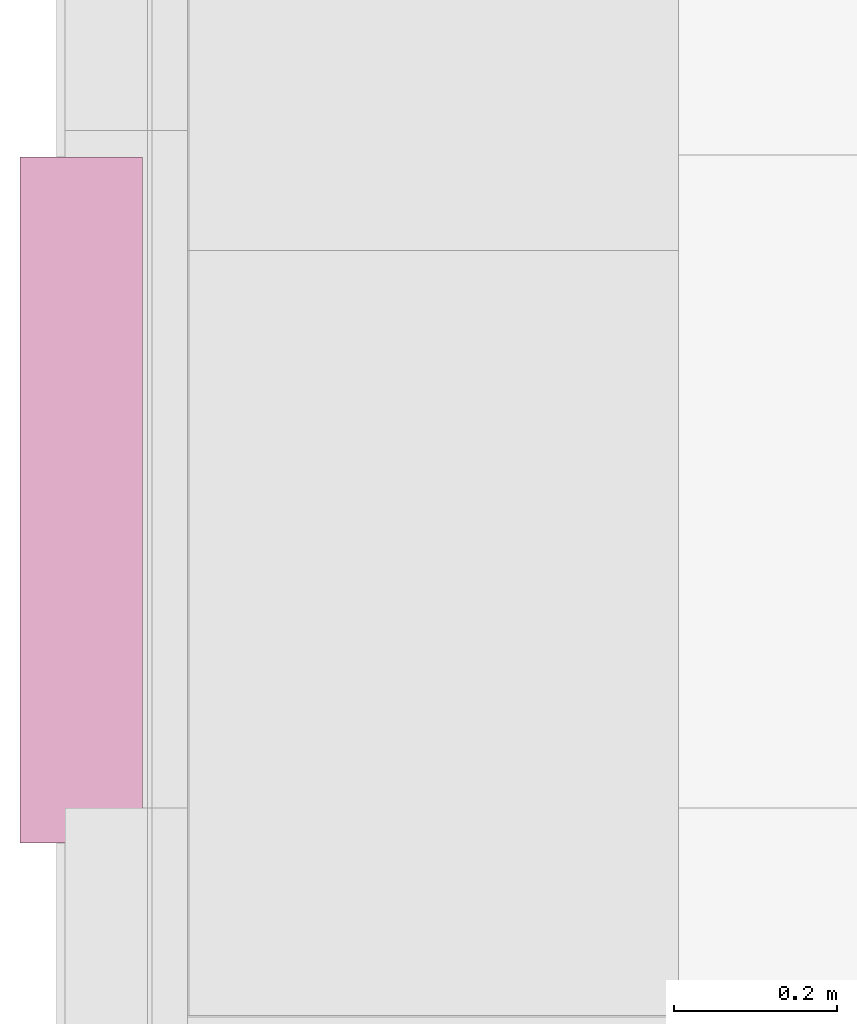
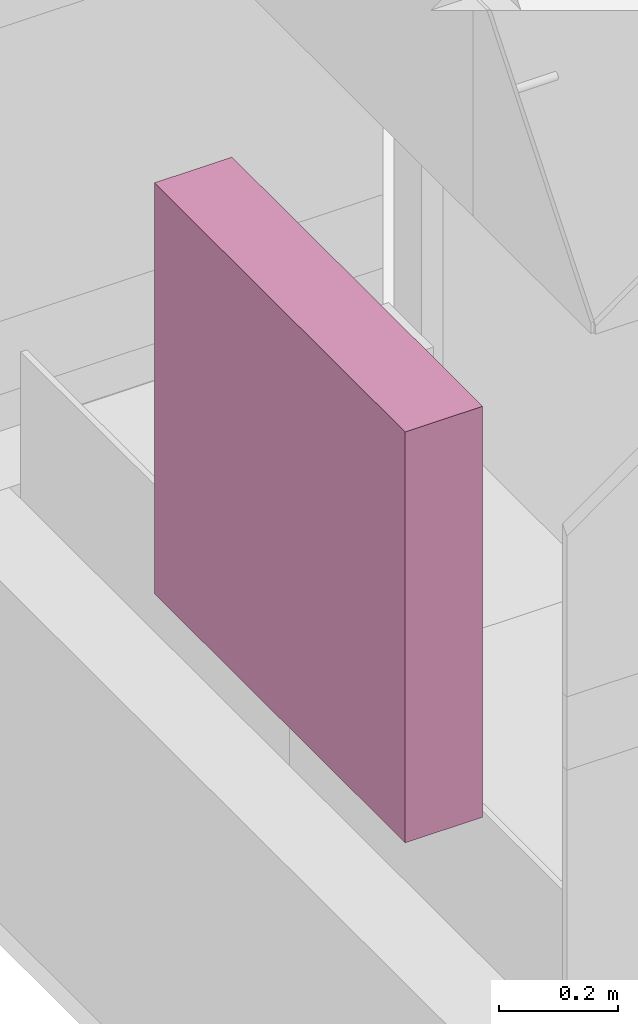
# One storey, part 24 of 26: 1 furnishing.
"""IFC2X3 building model written with IfcOpenShell, lengths in millimetres."""

from ifc_helpers import new_model, entity, si_unit, converted_unit, derived_unit, direction, frame, frame_2d, origin, origin_with_axes, place, context, subcontext, project, spatial, rectangle, extrude, source, transform, mapped, material, type_object, element, save


model = new_model("IFC2X3")

# Units and contexts
model_context = context("Model", 3, precision=0.01, world=frame((0.0, 4.29681676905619e-09, 0.0)), true_north=direction((4.01073788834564e-13, 1.0)))
plan_context = context("Plan", 3, precision=0.01, world=frame((0.0, 4.29681676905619e-09, 0.0)), true_north=direction((4.01073788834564e-13, 1.0)))
body_context = subcontext(model_context, "Body", "Model", "MODEL_VIEW")
ifc_project = project(units=[converted_unit("PLANEANGLEUNIT", "DEGREE", entity("IfcPositiveLengthMeasure", 0.0174532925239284), si_unit("PLANEANGLEUNIT", "RADIAN"), dimensions=[0, 0, 0, 0, 0, 0, 0]), si_unit("AREAUNIT", "SQUARE_METRE"), si_unit("LENGTHUNIT", "METRE", prefix="MILLI"), si_unit("MASSUNIT", "GRAM", prefix="KILO"), si_unit("POWERUNIT", "WATT"), si_unit("PRESSUREUNIT", "PASCAL", prefix="KILO"), si_unit("FORCEUNIT", "NEWTON", prefix="KILO"), si_unit("ELECTRICVOLTAGEUNIT", "VOLT"), si_unit("ELECTRICCURRENTUNIT", "AMPERE"), si_unit("THERMODYNAMICTEMPERATUREUNIT", "DEGREE_CELSIUS"), si_unit("TIMEUNIT", "SECOND"), si_unit("VOLUMEUNIT", "CUBIC_METRE"), derived_unit("LINEARVELOCITYUNIT", [(si_unit("LENGTHUNIT", "METRE"), 1), (si_unit("TIMEUNIT", "SECOND"), -1)]), derived_unit("VOLUMETRICFLOWRATEUNIT", [(si_unit("VOLUMEUNIT", "CUBIC_METRE"), 1), (si_unit("TIMEUNIT", "SECOND"), -1)]), derived_unit("THERMALTRANSMITTANCEUNIT", [(si_unit("POWERUNIT", "WATT"), 1), (si_unit("THERMODYNAMICTEMPERATUREUNIT", "KELVIN"), -1), (si_unit("AREAUNIT", "SQUARE_METRE"), -1)]), derived_unit("SOUNDPRESSUREUNIT", [(si_unit("PRESSUREUNIT", "PASCAL"), 1)])], contexts=[model_context, plan_context])

# Site, building, storey
site_placement = place(None, origin_with_axes())
site = spatial("IfcSite", under=ifc_project, at=site_placement, Name="ENGM", CompositionType="ELEMENT")
building_placement = place(site_placement, origin_with_axes())
building = spatial("IfcBuilding", under=site, at=building_placement, Name="TG", CompositionType="ELEMENT")
storey_placement = place(building_placement, frame((0.0, 0.0, 210200.0), z_axis=(0.0, 0.0, 1.0), x_axis=(1.0, 0.0, 0.0)))
storey = spatial("IfcBuildingStorey", under=building, at=storey_placement, Name="Nivå F - 0,7 m", CompositionType="ELEMENT", Elevation=210200.0)

# Furnishing
ifc_material = material(Name="<Unnamed>")
furniture_type = type_object("IfcFurnitureType", Name="A278 - brannskap1:A278 - Brannskap - eksisterende 840 x 840 x 150 mm", AssemblyPlace="NOTDEFINED", material=ifc_material)
shared_shape = source(origin(), body_context, "Body", "SweptSolid", [
    extrude(rectangle(XDim=150.0, YDim=840.0, at=frame_2d((0.0, 5.6843418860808e-14), x_axis=(1.0, 0.0))), frame((351.516491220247, 51.0075428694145, 0.0), z_axis=(0.0, 0.0, 1.0), x_axis=(0.0, 1.0, 0.0)), (0.0, 0.0, 1.0), 840.0),
])
furnishing_placement = place(storey_placement, frame((321876.00754285, 460455.596008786, 1050.0), z_axis=(0.0, 0.0, 1.0), x_axis=(0.0, 1.0, 0.0)))
element("IfcFurnishingElement", 1, at=furnishing_placement, inside=storey, type_object=furniture_type, material=ifc_material, Name="A278 - brannskap1:A278 - Brannskap - eksisterende 840 x 840 x 150 mm", ObjectType="A278 - brannskap1:A278 - Brannskap - eksisterende 840 x 840 x 150 mm", context=body_context, shape_type="MappedRepresentation", body=[
    mapped(shared_shape, transform((0.0, 0.0, 0.0), scale=1.0)),
])

save(model, "model.ifc")
